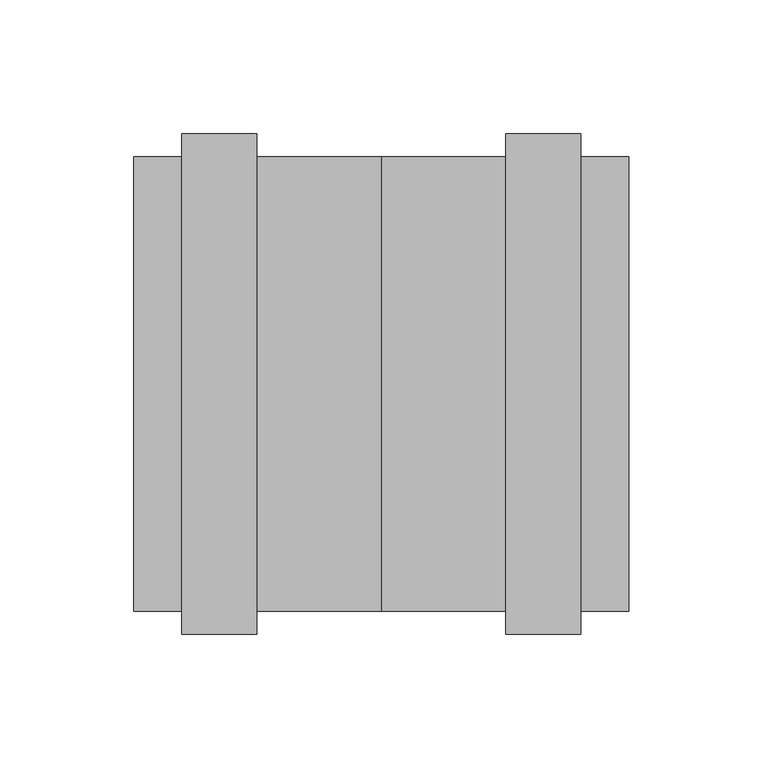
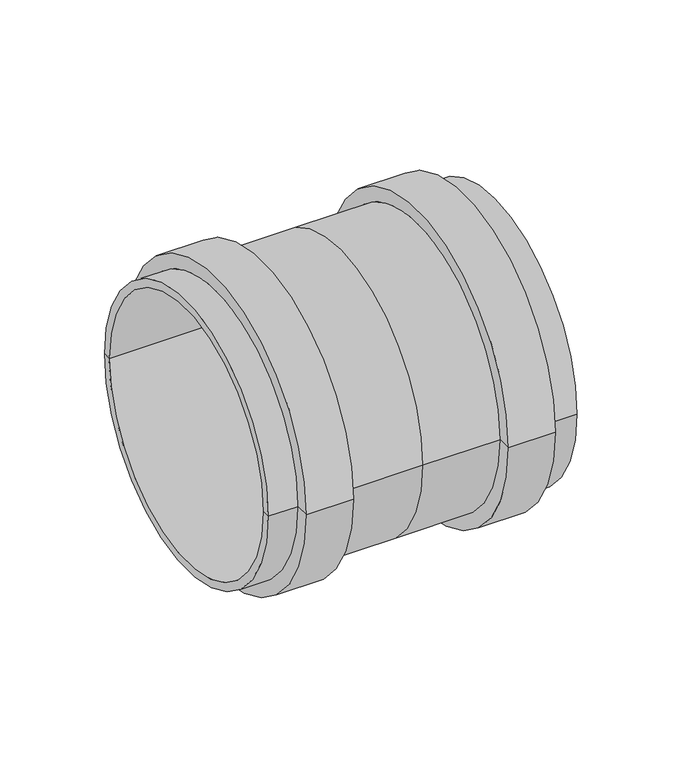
"""IFC4 building model written with IfcOpenShell, lengths in millimetres: pipe fitting geometry, OSMA_KG2000_PPKGMM : Spojka dvouhrdlá."""

from ifc_helpers import new_model, si_unit, frame, origin, place, context, project, spatial, polyline, circle_curve, source, transform, mapped, element, save
from ifc_brep_helpers import plane_surface, cylinder_surface, revolved_surface, advanced_brep


def pipe_fitting_495dd315(model_context):
    return source(origin(), model_context, "Body", "AdvancedBrep", [
        advanced_brep(
        [(-92.5, -80.0, 0.0), (-92.5, 80.0, 0.0), (-92.5, 84.9, 0.0), (-92.5, -84.9, 0.0), (-46.5, -93.5, 0.0), (-46.5, 93.5, 0.0), (-46.5, 84.9, 0.0), (-46.5, -84.9, 0.0), (-74.5, -93.5, 0.0), (-74.5, 93.5, 0.0), (-74.5, -84.9, 0.0), (-74.5, 84.9, 0.0), (0.0, 84.9, 0.0), (0.0, -84.9, 0.0), (74.5, -93.5, 0.0), (74.5, 93.5, 0.0), (74.5, 84.9, 0.0), (74.5, -84.9, 0.0), (46.5, -93.5, 0.0), (46.5, 93.5, 0.0), (46.5, -84.9, 0.0), (46.5, 84.9, 0.0), (92.5, 84.9, 0.0), (92.5, -84.9, 0.0), (92.5, 80.0, 0.0), (92.5, -80.0, 0.0), (0.0, -80.0, 0.0), (0.0, 80.0, 0.0)],
        [
            (0, 1, circle_curve(frame((-92.5, 0.0, 0.0), z_axis=(1.0, 0.0, 0.0), x_axis=(0.0, 1.0, 0.0)), 80.0)),
            (1, 2),
            (2, 3, circle_curve(frame((-92.5, 0.0, 0.0), z_axis=(-1.0, 0.0, 0.0), x_axis=(0.0, 1.0, 0.0)), 84.9)),
            (3, 0),
            (1, 0, circle_curve(frame((-92.5, 0.0, 0.0), z_axis=(1.0, 0.0, 0.0), x_axis=(0.0, 1.0, 0.0)), 80.0)),
            (3, 2, circle_curve(frame((-92.5, 0.0, 0.0), z_axis=(-1.0, 0.0, 0.0), x_axis=(0.0, 1.0, 0.0)), 84.9)),
            (4, 5, circle_curve(frame((-46.5, 0.0, 0.0), z_axis=(1.0, 0.0, 0.0), x_axis=(0.0, 1.0, 0.0)), 93.5)),
            (5, 6),
            (6, 7, circle_curve(frame((-46.5, 0.0, 0.0), z_axis=(-1.0, 0.0, 0.0), x_axis=(0.0, 1.0, 0.0)), 84.9)),
            (7, 4),
            (5, 4, circle_curve(frame((-46.5, 0.0, 0.0), z_axis=(1.0, 0.0, 0.0), x_axis=(0.0, 1.0, 0.0)), 93.5)),
            (7, 6, circle_curve(frame((-46.5, 0.0, 0.0), z_axis=(-1.0, 0.0, 0.0), x_axis=(0.0, 1.0, 0.0)), 84.9)),
            (4, 8),
            (8, 9, circle_curve(frame((-74.5, 0.0, 0.0), z_axis=(1.0, 0.0, 0.0), x_axis=(0.0, 1.0, 0.0)), 93.5)),
            (9, 5),
            (9, 8, circle_curve(frame((-74.5, 0.0, 0.0), z_axis=(1.0, 0.0, 0.0), x_axis=(0.0, 1.0, 0.0)), 93.5)),
            (8, 10),
            (10, 11, circle_curve(frame((-74.5, 0.0, 0.0), z_axis=(1.0, 0.0, 0.0), x_axis=(0.0, 1.0, 0.0)), 84.9)),
            (11, 9),
            (11, 10, circle_curve(frame((-74.5, 0.0, 0.0), z_axis=(1.0, 0.0, 0.0), x_axis=(0.0, 1.0, 0.0)), 84.9)),
            (2, 11),
            (10, 3),
            (6, 12),
            (12, 13, circle_curve(frame((0.0, 0.0, 0.0), z_axis=(-1.0, 0.0, 0.0), x_axis=(0.0, 1.0, 0.0)), 84.9)),
            (13, 7),
            (13, 12, circle_curve(frame((0.0, 0.0, 0.0), z_axis=(-1.0, 0.0, 0.0), x_axis=(0.0, 1.0, 0.0)), 84.9)),
            (14, 15, circle_curve(frame((74.5, 0.0, 0.0), z_axis=(1.0, 0.0, 0.0), x_axis=(0.0, 1.0, 0.0)), 93.5)),
            (15, 16),
            (16, 17, circle_curve(frame((74.5, 0.0, 0.0), z_axis=(-1.0, 0.0, 0.0), x_axis=(0.0, 1.0, 0.0)), 84.9)),
            (17, 14),
            (15, 14, circle_curve(frame((74.5, 0.0, 0.0), z_axis=(1.0, 0.0, 0.0), x_axis=(0.0, 1.0, 0.0)), 93.5)),
            (17, 16, circle_curve(frame((74.5, 0.0, 0.0), z_axis=(-1.0, 0.0, 0.0), x_axis=(0.0, 1.0, 0.0)), 84.9)),
            (14, 18),
            (18, 19, circle_curve(frame((46.5, 0.0, 0.0), z_axis=(1.0, 0.0, 0.0), x_axis=(0.0, 1.0, 0.0)), 93.5)),
            (19, 15),
            (19, 18, circle_curve(frame((46.5, 0.0, 0.0), z_axis=(1.0, 0.0, 0.0), x_axis=(0.0, 1.0, 0.0)), 93.5)),
            (18, 20),
            (20, 21, circle_curve(frame((46.5, 0.0, 0.0), z_axis=(1.0, 0.0, 0.0), x_axis=(0.0, 1.0, 0.0)), 84.9)),
            (21, 19),
            (21, 20, circle_curve(frame((46.5, 0.0, 0.0), z_axis=(1.0, 0.0, 0.0), x_axis=(0.0, 1.0, 0.0)), 84.9)),
            (20, 13),
            (12, 21),
            (16, 22),
            (22, 23, circle_curve(frame((92.5, 0.0, 0.0), z_axis=(-1.0, 0.0, 0.0), x_axis=(0.0, 1.0, 0.0)), 84.9)),
            (23, 17),
            (23, 22, circle_curve(frame((92.5, 0.0, 0.0), z_axis=(-1.0, 0.0, 0.0), x_axis=(0.0, 1.0, 0.0)), 84.9)),
            (22, 24),
            (24, 25, circle_curve(frame((92.5, 0.0, 0.0), z_axis=(-1.0, 0.0, 0.0), x_axis=(0.0, 1.0, 0.0)), 80.0)),
            (25, 23),
            (25, 24, circle_curve(frame((92.5, 0.0, 0.0), z_axis=(-1.0, 0.0, 0.0), x_axis=(0.0, 1.0, 0.0)), 80.0)),
            (0, 26),
            (26, 27, circle_curve(frame((0.0, 0.0, 0.0), z_axis=(1.0, 0.0, 0.0), x_axis=(0.0, 1.0, 0.0)), 80.0)),
            (27, 1),
            (27, 26, circle_curve(frame((0.0, 0.0, 0.0), z_axis=(1.0, 0.0, 0.0), x_axis=(0.0, 1.0, 0.0)), 80.0)),
            (24, 27),
            (26, 25),
        ],
        [
            plane_surface(frame((-92.5, 0.0, 0.0), z_axis=(-1.0, 0.0, 0.0), x_axis=(0.0, 1.0, 0.0))),
            plane_surface(frame((-46.5, 0.0, 0.0), z_axis=(1.0, 0.0, 0.0), x_axis=(0.0, 1.0, 0.0))),
            cylinder_surface(frame((293.0, 0.0, 0.0), z_axis=(-1.0, 0.0, 0.0), x_axis=(0.0, 1.0, 0.0)), 93.5),
            plane_surface(frame((-74.5, 0.0, 0.0), z_axis=(-1.0, 0.0, 0.0), x_axis=(0.0, 1.0, 0.0))),
            cylinder_surface(frame((293.0, 0.0, 0.0), z_axis=(-1.0, 0.0, 0.0), x_axis=(0.0, 1.0, 0.0)), 84.9),
            plane_surface(frame((74.5, 0.0, 0.0), z_axis=(1.0, 0.0, 0.0), x_axis=(0.0, 1.0, 0.0))),
            plane_surface(frame((46.5, 0.0, 0.0), z_axis=(-1.0, 0.0, 0.0), x_axis=(0.0, 1.0, 0.0))),
            plane_surface(frame((92.5, 0.0, 0.0), z_axis=(1.0, 0.0, 0.0), x_axis=(0.0, 1.0, 0.0))),
            revolved_surface(polyline([(-92.5, 80.0, 0.0), (0.0, 80.0, 0.0)]), (293.0, 0.0, 0.0), (-1.0, 0.0, 0.0)),
            revolved_surface(polyline([(0.0, 80.0, 0.0), (92.5, 80.0, 0.0)]), (293.0, 0.0, 0.0), (-1.0, 0.0, 0.0)),
        ],
        [
            (0, [[1, 2, 3, 4]]),
            (0, [[-2, 5, -4, 6]]),
            (1, [[7, 8, 9, 10]]),
            (1, [[-8, 11, -10, 12]]),
            (2, [[-7, 13, 14, 15]]),
            (2, [[-11, -15, 16, -13]]),
            (3, [[-14, 17, 18, 19]]),
            (3, [[-16, -19, 20, -17]]),
            (4, [[-3, 21, -18, 22]]),
            (4, [[-6, -22, -20, -21]]),
            (4, [[-9, 23, 24, 25]]),
            (4, [[-12, -25, 26, -23]]),
            (5, [[27, 28, 29, 30]]),
            (5, [[-28, 31, -30, 32]]),
            (2, [[-27, 33, 34, 35]]),
            (2, [[-31, -35, 36, -33]]),
            (6, [[-34, 37, 38, 39]]),
            (6, [[-36, -39, 40, -37]]),
            (4, [[-38, 41, -24, 42]]),
            (4, [[-40, -42, -26, -41]]),
            (4, [[-29, 43, 44, 45]]),
            (4, [[-32, -45, 46, -43]]),
            (7, [[-44, 47, 48, 49]]),
            (7, [[-46, -49, 50, -47]]),
            (8, [[-1, 51, 52, 53]]),
            (8, [[-5, -53, 54, -51]]),
            (9, [[-48, 55, -52, 56]]),
            (9, [[-50, -56, -54, -55]]),
        ],
    ),
    ])


if __name__ == "__main__":
    model = new_model("IFC4")
    model_context = context("Model", 3, world=origin())
    ifc_project = project(units=[si_unit("LENGTHUNIT", "METRE", prefix="MILLI")], contexts=[model_context])
    site = spatial("IfcSite", under=ifc_project)
    building = spatial("IfcBuilding", under=site)
    placement = place(None, origin())
    pipe_fitting_shape = pipe_fitting_495dd315(model_context)
    element("IfcPipeFitting", 1, ObjectType="OSMA_KG2000_PPKGMM : Spojka dvouhrdlá", at=placement, inside=building, context=model_context, shape_type="MappedRepresentation", body=[
        mapped(pipe_fitting_shape, transform((0.0, 0.0, 0.0), x_axis=(1.0, 0.0, 0.0), y_axis=(0.0, 1.0, 0.0), z_axis=(0.0, 0.0, 1.0))),
    ])
    save(model, "model.ifc")
